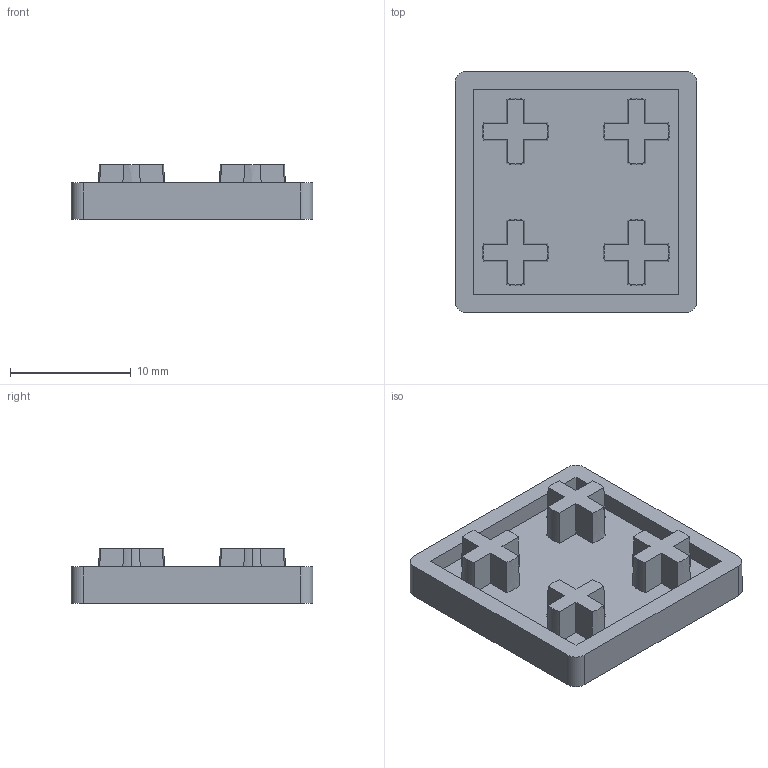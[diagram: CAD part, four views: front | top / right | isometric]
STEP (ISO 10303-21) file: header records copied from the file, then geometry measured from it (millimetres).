
FILE_DESCRIPTION (( 'STEP AP203' ), '1' );
FILE_NAME ('EC2020-4.STEP', '2024-02-17T06:14:15', ( '' ), ( '' ), 'SwSTEP 2.0', 'SolidWorks 2022', '' );
FILE_SCHEMA (( 'CONFIG_CONTROL_DESIGN' ));
Length unit declared in the file: millimetre
Products named in the file (1): EC2020-4
Bounding box: 20 x 20 x 4.5 mm (x, y, z)
Volume: 922.5 mm3; surface area: 1380.6 mm2
Topology: 1 solids, 1 shells, 71 faces, 192 edges, 128 vertices
Faces by surface type: plane 47, cone 20, cylinder 4
Entity records: 2343 total; most frequent: CARTESIAN_POINT 488, ORIENTED_EDGE 384, DIRECTION 352, EDGE_CURVE 192, VERTEX_POINT 128, AXIS2_PLACEMENT_3D 120, VECTOR 112, LINE 112
